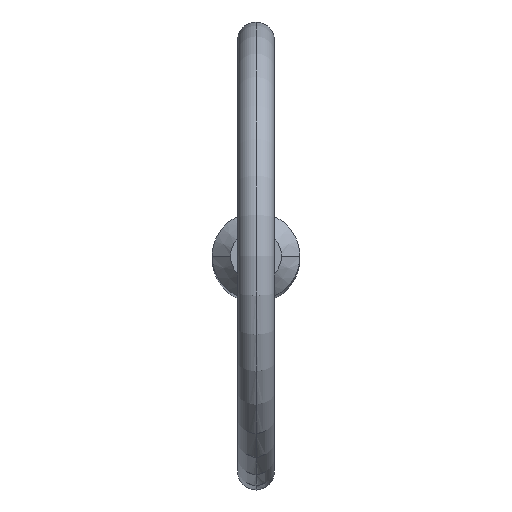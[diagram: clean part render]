
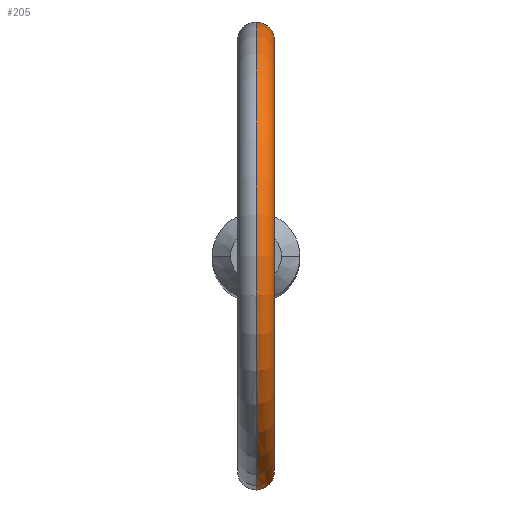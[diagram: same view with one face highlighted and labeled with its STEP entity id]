
A CAD part, top view. The second image highlights one B-rep face of the part: STEP entity #205.
In plain terms, the highlighted toroidal (fillet/blend) face has major radius 11.7 mm and minor radius 1 mm.
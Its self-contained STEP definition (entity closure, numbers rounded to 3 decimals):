
#2 = CARTESIAN_POINT ( 'NONE',  ( 0., 2.38, 73.368 ) ) ;
#26 = CARTESIAN_POINT ( 'NONE',  ( 0.513, 2.327, 71.449 ) ) ;
#30 = CARTESIAN_POINT ( 'NONE',  ( 0.133, 2.38, 71.325 ) ) ;
#32 = CARTESIAN_POINT ( 'NONE',  ( 0.267, 2.368, 73.337 ) ) ;
#38 = CARTESIAN_POINT ( 'NONE',  ( 0.864, 2.218, 72.841 ) ) ;
#39 = CARTESIAN_POINT ( 'NONE',  ( 0., 0., 83.8 ) ) ;
#71 = CARTESIAN_POINT ( 'NONE',  ( 0.625, -2.299, 71.521 ) ) ;
#74 = CARTESIAN_POINT ( 'NONE',  ( 0.996, -2.162, 72.464 ) ) ;
#76 = CARTESIAN_POINT ( 'NONE',  ( 0., -2.38, 71.325 ) ) ;
#78 = B_SPLINE_CURVE_WITH_KNOTS ( 'NONE', 3,
 ( #102, #30, #235, #26, #265, #280, #320, #245, #366, #399, #120, #38, #318, #394, #211, #32, #212, #2 ),
 .UNSPECIFIED., .F., .F.,
 ( 4, 2, 2, 2, 2, 2, 2, 2, 4 ),
 ( 0.001, 0.001, 0.001, 0.002, 0.002, 0.003, 0.003, 0.003, 0.004 ),
 .UNSPECIFIED. ) ;
#94 = EDGE_CURVE ( 'NONE', #199, #188, #125, .T. ) ;
#98 = CIRCLE ( 'NONE', #382, 10.7 ) ;
#102 = CARTESIAN_POINT ( 'NONE',  ( 0., 2.38, 71.325 ) ) ;
#116 = CARTESIAN_POINT ( 'NONE',  ( 0.133, -2.38, 71.325 ) ) ;
#120 = CARTESIAN_POINT ( 'NONE',  ( 0.966, 2.176, 72.597 ) ) ;
#125 = CIRCLE ( 'NONE', #370, 12.7 ) ;
#149 = DIRECTION ( 'NONE',  ( 1., 0., 0. ) ) ;
#159 = VERTEX_POINT ( 'NONE', #310 ) ;
#162 = DIRECTION ( 'NONE',  ( 0., 0., -1. ) ) ;
#166 = ORIENTED_EDGE ( 'NONE', *, *, #388, .F. ) ;
#186 = CARTESIAN_POINT ( 'NONE',  ( 0.981, -2.169, 72.064 ) ) ;
#187 = FACE_OUTER_BOUND ( 'NONE', #255, .T. ) ;
#188 = VERTEX_POINT ( 'NONE', #362 ) ;
#199 = VERTEX_POINT ( 'NONE', #395 ) ;
#204 = DIRECTION ( 'NONE',  ( 0., 0., -1. ) ) ;
#205 = ADVANCED_FACE ( 'NONE', ( #187 ), #462, .T. ) ;
#211 = CARTESIAN_POINT ( 'NONE',  ( 0.509, 2.328, 73.224 ) ) ;
#212 = CARTESIAN_POINT ( 'NONE',  ( 0.134, 2.38, 73.368 ) ) ;
#214 = ORIENTED_EDGE ( 'NONE', *, *, #411, .F. ) ;
#235 = CARTESIAN_POINT ( 'NONE',  ( 0.267, 2.368, 71.35 ) ) ;
#244 = CARTESIAN_POINT ( 'NONE',  ( 0.268, -2.368, 71.351 ) ) ;
#245 = CARTESIAN_POINT ( 'NONE',  ( 0.981, 2.169, 72.062 ) ) ;
#255 = EDGE_LOOP ( 'NONE', ( #166, #414, #415, #214 ) ) ;
#256 = CARTESIAN_POINT ( 'NONE',  ( 0., 0., 83.8 ) ) ;
#263 = DIRECTION ( 'NONE',  ( 1., 0., 0. ) ) ;
#265 = CARTESIAN_POINT ( 'NONE',  ( 0.625, 2.299, 71.521 ) ) ;
#274 = CARTESIAN_POINT ( 'NONE',  ( 0.268, -2.368, 73.337 ) ) ;
#275 = CARTESIAN_POINT ( 'NONE',  ( 0.966, -2.176, 72.597 ) ) ;
#278 = CARTESIAN_POINT ( 'NONE',  ( 0.508, -2.328, 73.224 ) ) ;
#280 = CARTESIAN_POINT ( 'NONE',  ( 0.811, 2.24, 71.706 ) ) ;
#310 = CARTESIAN_POINT ( 'NONE',  ( 0., -2.38, 73.368 ) ) ;
#312 = CARTESIAN_POINT ( 'NONE',  ( 0., -2.38, 73.368 ) ) ;
#315 = CARTESIAN_POINT ( 'NONE',  ( 0.885, -2.21, 71.817 ) ) ;
#318 = CARTESIAN_POINT ( 'NONE',  ( 0.793, 2.246, 72.953 ) ) ;
#320 = CARTESIAN_POINT ( 'NONE',  ( 0.884, 2.21, 71.817 ) ) ;
#322 = CARTESIAN_POINT ( 'NONE',  ( 0.865, -2.218, 72.84 ) ) ;
#331 = VERTEX_POINT ( 'NONE', #471 ) ;
#343 = CARTESIAN_POINT ( 'NONE',  ( 0., 0., 83.8 ) ) ;
#357 = CARTESIAN_POINT ( 'NONE',  ( 0.811, -2.24, 71.706 ) ) ;
#361 = DIRECTION ( 'NONE',  ( 0., 0., -1. ) ) ;
#362 = CARTESIAN_POINT ( 'NONE',  ( 0., -2.38, 71.325 ) ) ;
#365 = CARTESIAN_POINT ( 'NONE',  ( 0.513, -2.327, 71.448 ) ) ;
#366 = CARTESIAN_POINT ( 'NONE',  ( 1.003, 2.158, 72.197 ) ) ;
#368 = CARTESIAN_POINT ( 'NONE',  ( 0.615, -2.301, 73.144 ) ) ;
#370 = AXIS2_PLACEMENT_3D ( 'NONE', #343, #263, #204 ) ;
#378 = DIRECTION ( 'NONE',  ( 1., 0., 0. ) ) ;
#382 = AXIS2_PLACEMENT_3D ( 'NONE', #39, #149, #361 ) ;
#388 = EDGE_CURVE ( 'NONE', #199, #331, #78, .T. ) ;
#394 = CARTESIAN_POINT ( 'NONE',  ( 0.614, 2.301, 73.145 ) ) ;
#395 = CARTESIAN_POINT ( 'NONE',  ( 0., 2.38, 71.325 ) ) ;
#399 = CARTESIAN_POINT ( 'NONE',  ( 0.996, 2.162, 72.464 ) ) ;
#403 = EDGE_CURVE ( 'NONE', #159, #188, #473, .T. ) ;
#411 = EDGE_CURVE ( 'NONE', #331, #159, #98, .T. ) ;
#414 = ORIENTED_EDGE ( 'NONE', *, *, #94, .T. ) ;
#415 = ORIENTED_EDGE ( 'NONE', *, *, #403, .F. ) ;
#416 = AXIS2_PLACEMENT_3D ( 'NONE', #256, #378, #162 ) ;
#427 = CARTESIAN_POINT ( 'NONE',  ( 0.134, -2.38, 73.368 ) ) ;
#430 = CARTESIAN_POINT ( 'NONE',  ( 0.793, -2.246, 72.952 ) ) ;
#437 = CARTESIAN_POINT ( 'NONE',  ( 1.003, -2.158, 72.199 ) ) ;
#462 = TOROIDAL_SURFACE ( 'NONE', #416, 11.7, 1. ) ;
#471 = CARTESIAN_POINT ( 'NONE',  ( 0., 2.38, 73.368 ) ) ;
#473 = B_SPLINE_CURVE_WITH_KNOTS ( 'NONE', 3,
 ( #312, #427, #274, #278, #368, #430, #322, #275, #74, #437, #186, #315, #357, #71, #365, #244, #116, #76 ),
 .UNSPECIFIED., .F., .F.,
 ( 4, 2, 2, 2, 2, 2, 2, 2, 4 ),
 ( 0.003, 0.003, 0.003, 0.004, 0.004, 0.005, 0.005, 0.005, 0.006 ),
 .UNSPECIFIED. ) ;
